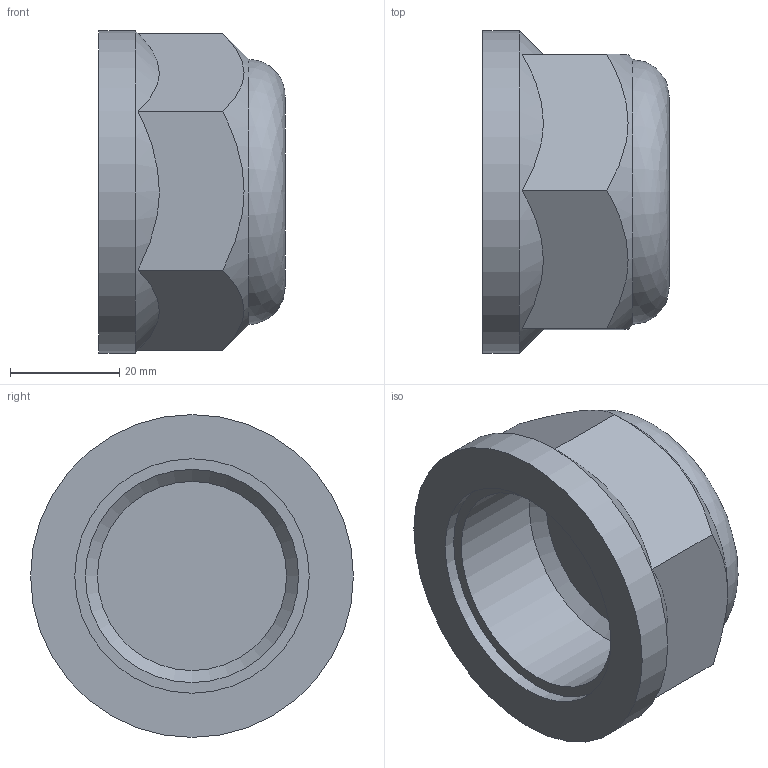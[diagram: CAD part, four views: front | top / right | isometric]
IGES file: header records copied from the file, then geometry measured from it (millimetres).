
Global section: file name: 050707013_0507070130A.ipt; native system: Autodesk Inventor 2015; preprocessor: unknown; author: KIM; date: 20170618.093306; units: millimetre
Bounding box: 34 x 59 x 59 mm (x, y, z)
Volume: 48160.4 mm3; surface area: 12861.6 mm2
Topology: 1 solids, 1 shells, 17 faces, 55 edges, 42 vertices
Faces by surface type: plane 10, revolution 4, cone 2, cylinder 1
Full cylindrical faces by diameter (mm): 59 x1
